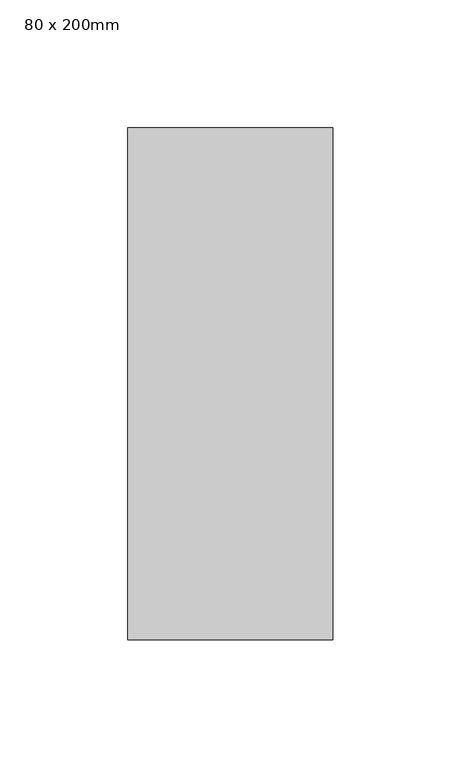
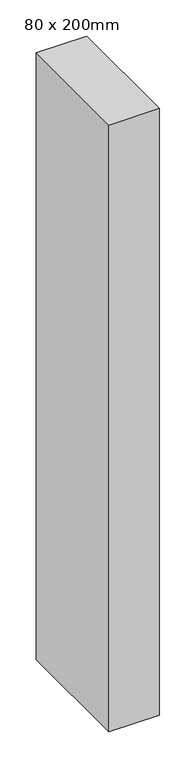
"""IFC4 building model written with IfcOpenShell, lengths in millimetres: member geometry, 矩形竖梃 : 80 x 200mm."""

from ifc_helpers import new_model, si_unit, frame, origin, place, context, project, spatial, polyline, outline, extrude, source, transform, mapped, element, save


def member_80_x_200mm_9974a9cf(model_context):
    return source(origin(), model_context, "Body", "SweptSolid", [
        extrude(outline(polyline([(40.0, 100.0), (40.0, -100.0), (-40.0, -100.0), (-40.0, 100.0), (40.0, 100.0)])), frame((0.0, 0.0, -1020.0000248), z_axis=(0.0, 0.0, 1.0), x_axis=(1.0, 0.0, 0.0)), (0.0, 0.0, 1.0), 1020.0000248),
    ])


if __name__ == "__main__":
    model = new_model("IFC4")
    model_context = context("Model", 3, world=origin())
    ifc_project = project(units=[si_unit("LENGTHUNIT", "METRE", prefix="MILLI")], contexts=[model_context])
    site = spatial("IfcSite", under=ifc_project)
    building = spatial("IfcBuilding", under=site)
    placement = place(None, origin())
    member_80_x_200mm_shape = member_80_x_200mm_9974a9cf(model_context)
    element("IfcMember", 1, ObjectType="矩形竖梃 : 80 x 200mm", at=placement, inside=building, context=model_context, shape_type="MappedRepresentation", body=[
        mapped(member_80_x_200mm_shape, transform((0.0, 0.0, 0.0), x_axis=(1.0, 0.0, 0.0), y_axis=(0.0, 1.0, 0.0), z_axis=(0.0, 0.0, 1.0))),
    ])
    save(model, "model.ifc")
